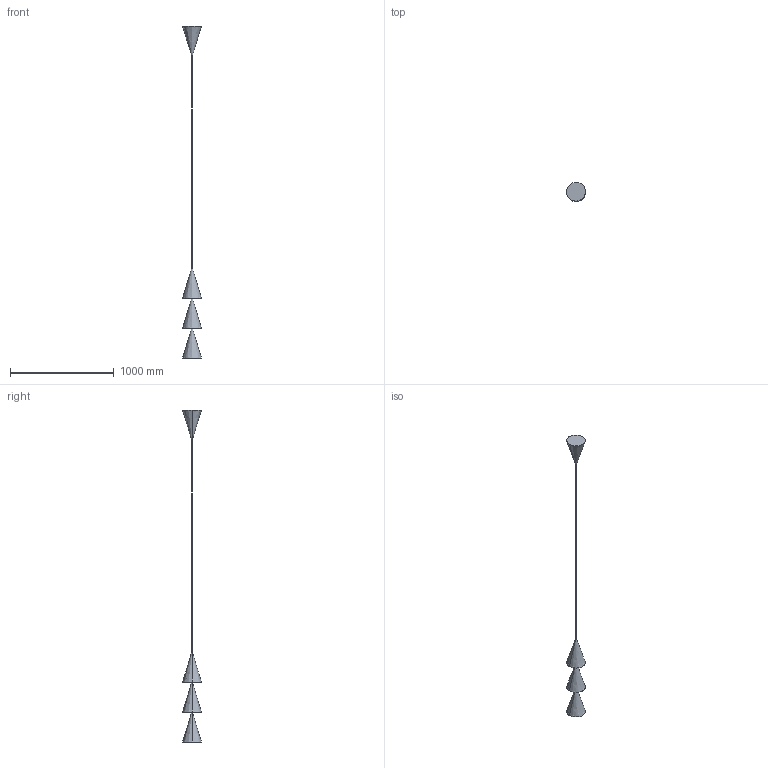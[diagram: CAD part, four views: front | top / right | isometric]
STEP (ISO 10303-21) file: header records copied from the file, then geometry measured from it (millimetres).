
FILE_DESCRIPTION(/* description */ (''),/* implementation_level */ '2;1');
FILE_NAME(/* name */ 'PEAKS-3-down',/* time_stamp */ '2023-08-21T16:52:19+01:00',/* author */ (''),/* organization */ (''),/* preprocessor_version */ 'ST-DEVELOPER v16.5',/* originating_system */ 'Rhino 7.32',/* authorisation */ '');
FILE_SCHEMA (('CONFIG_CONTROL_DESIGN'));
Length unit declared in the file: millimetre
Products named in the file (1): Document
Bounding box: 180 x 179.77 x 3200 mm (x, y, z)
Volume: 10109428.8 mm3; surface area: 484276 mm2
Topology: 1 solids, 1 shells, 16 faces, 30 edges, 20 vertices
Faces by surface type: bspline 8, plane 6, cylinder 2
Entity records: 540 total; most frequent: CARTESIAN_POINT 254, ORIENTED_EDGE 60, EDGE_CURVE 30, EDGE_LOOP 20, VERTEX_POINT 20, ADVANCED_FACE 16, FACE_OUTER_BOUND 16, DIRECTION 12
